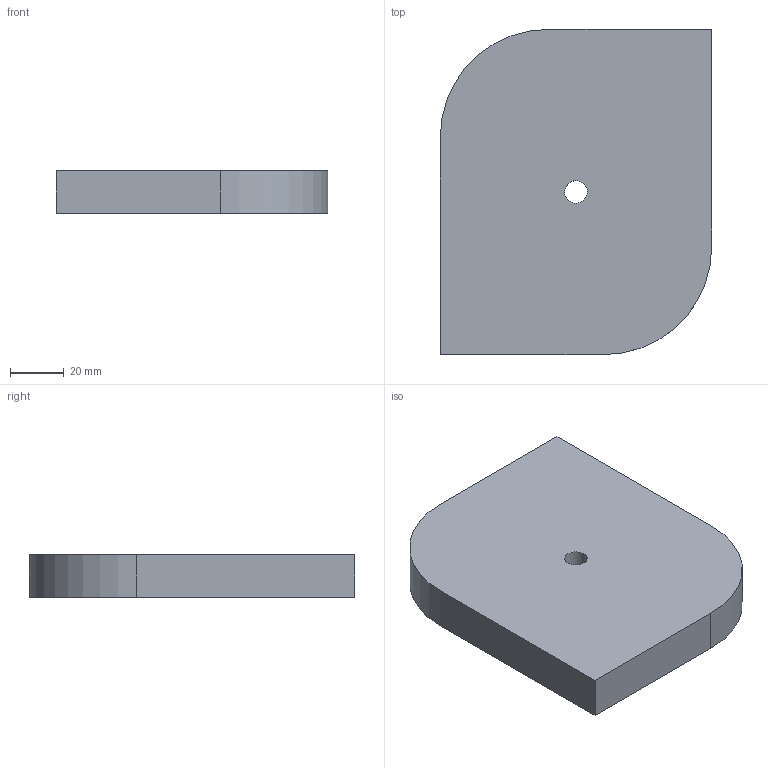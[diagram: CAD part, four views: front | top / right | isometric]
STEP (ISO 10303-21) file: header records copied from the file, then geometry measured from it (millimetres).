
FILE_DESCRIPTION(('CATIA V5 STEP Exchange'),'2;1');
FILE_NAME('C:\_Andres\UNIVERSIDAD\IQS\ASIGNATURAS\DAO\EXF\EXF-15161c\1original\Gual_Moseguí_Ej01-plano_v11.stp','2016-03-04T14:59:44+00:00',('none'),('none'),'CATIA Version 5 Release 20 SP 1 (IN-10)','CATIA V5 STEP AP203','none');
FILE_SCHEMA(('CONFIG_CONTROL_DESIGN'));
Length unit declared in the file: millimetre
Products named in the file (1): Gual_Moseguí_Ej01-plano_v11
Bounding box: 101 x 121 x 16 mm (x, y, z)
Volume: 183666.8 mm3; surface area: 29934 mm2
Topology: 1 solids, 1 shells, 10 faces, 24 edges, 16 vertices
Faces by surface type: plane 6, cylinder 4
Entity records: 333 total; most frequent: CARTESIAN_POINT 51, ORIENTED_EDGE 48, DIRECTION 44, EDGE_CURVE 24, AXIS2_PLACEMENT_3D 19, VECTOR 16, LINE 16, VERTEX_POINT 16
